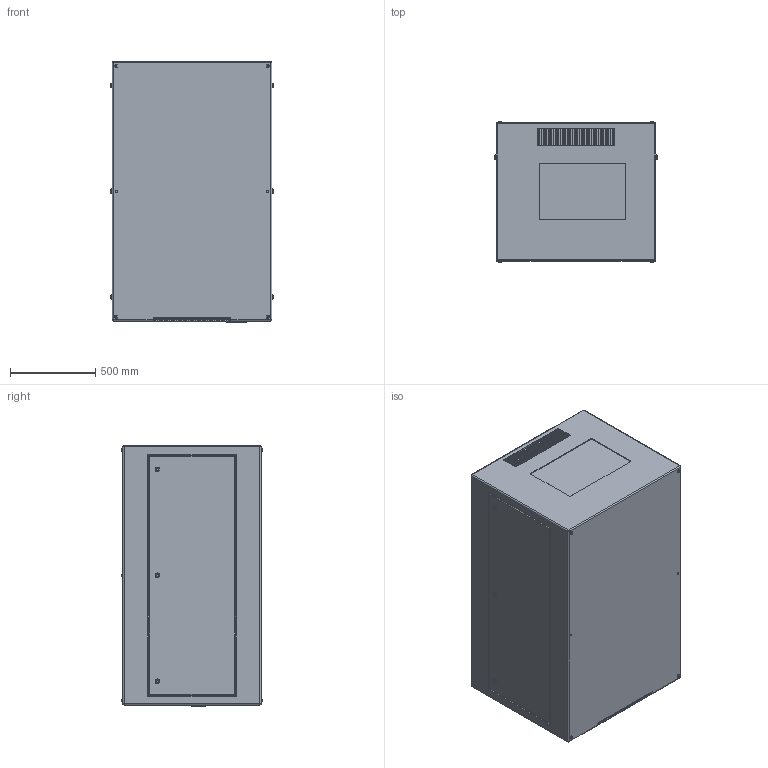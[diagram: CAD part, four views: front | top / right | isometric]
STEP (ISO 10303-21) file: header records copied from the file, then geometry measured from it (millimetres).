
FILE_DESCRIPTION (( 'STEP AP214' ), '1' );
FILE_NAME ('Zen 57.314.L R11 Landscape Hush Enclosure.STEP', '2021-04-23T00:27:49', ( '' ), ( '' ), 'SwSTEP 2.0', 'SolidWorks 2020', '' );
FILE_SCHEMA (( 'AUTOMOTIVE_DESIGN' ));
Length unit declared in the file: inch
Products named in the file (1): Zen 57.314.L R11 Landscape Hush Enclosure
Bounding box: 952.5 x 827.53 x 1531.62 mm (x, y, z)
Volume: 1161677257 mm3; surface area: 7455218.8 mm2
Topology: 1 solids, 1 shells, 1125 faces, 2838 edges, 1746 vertices
Faces by surface type: plane 515, cylinder 484, sphere 74, torus 52
Entity records: 36313 total; most frequent: DIRECTION 6040, CARTESIAN_POINT 5684, ORIENTED_EDGE 5528, EDGE_CURVE 2764, AXIS2_PLACEMENT_3D 2166, VERTEX_POINT 1746, VECTOR 1708, LINE 1708
